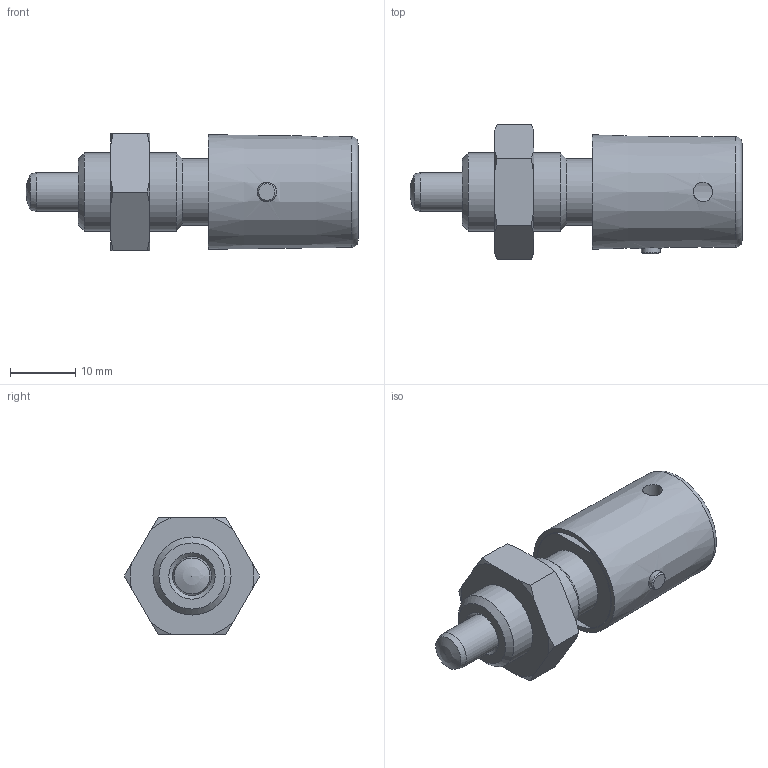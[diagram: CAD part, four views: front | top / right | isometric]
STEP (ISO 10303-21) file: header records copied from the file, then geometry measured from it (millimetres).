
FILE_DESCRIPTION( ( 'STEP AP203' ), '1' );
FILE_NAME( 'C:/Temp/Ganter_Step_05_03_2020/data/3_1/gn816/gn_816_bk/Locking plunger GN 816-6-M12x1,5-BK (deactivated).stp', '2020-03-12T08:56:00', ( 'License CC BY-ND 4.0' ), ( 'CADENAS' ), ' ', 'PARTsolutions', ' ' );
FILE_SCHEMA( ( 'CONFIG_CONTROL_DESIGN' ) );
Length unit declared in the file: millimetre
Products named in the file (4): Locking plunger GN 816-6-M12x1,5-BK (deactivated); _GN 816-6-M12x1,5-B(0)-b2; _GN 816-6-M12x1,5-Bb1; _Lock nut ISO 8675 GN 816-6-M12x1,5-AK
Assembly tree (3 placements, depth 2):
  Locking plunger GN 816-6-M12x1,5-BK (deactivated)
    _GN 816-6-M12x1,5-B(0)-b2
    _GN 816-6-M12x1,5-Bb1
    _Lock nut ISO 8675 GN 816-6-M12x1,5-AK
Bounding box: 51 x 20.78 x 18 mm (x, y, z)
Volume: 7281.2 mm3; surface area: 5780 mm2
Topology: 3 solids, 3 shells, 61 faces, 134 edges, 86 vertices
Faces by surface type: cone 23, plane 21, cylinder 14, torus 2, sphere 1
Full cylindrical faces by diameter (mm): 2.9 x2, 3 x2, 5.9 x1, 6 x2, 10.2 x1, 10.376 x1, 11.1 x1, 12 x1, 16.2 x1
Entity records: 1979 total; most frequent: CARTESIAN_POINT 624, DIRECTION 252, ORIENTED_EDGE 208, AXIS2_PLACEMENT_3D 113, EDGE_CURVE 104, EDGE_LOOP 102, VERTEX_POINT 83, FACE_OUTER_BOUND 75
